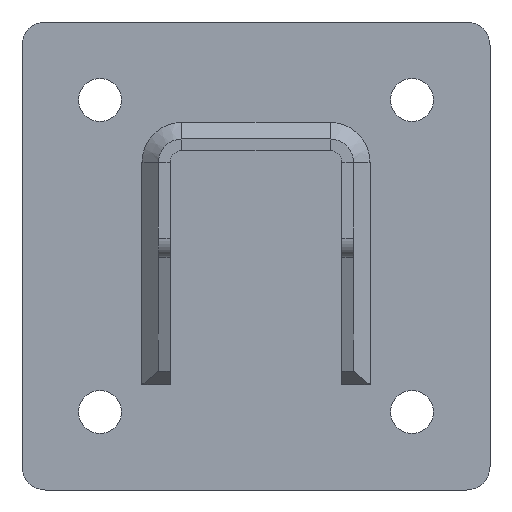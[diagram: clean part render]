
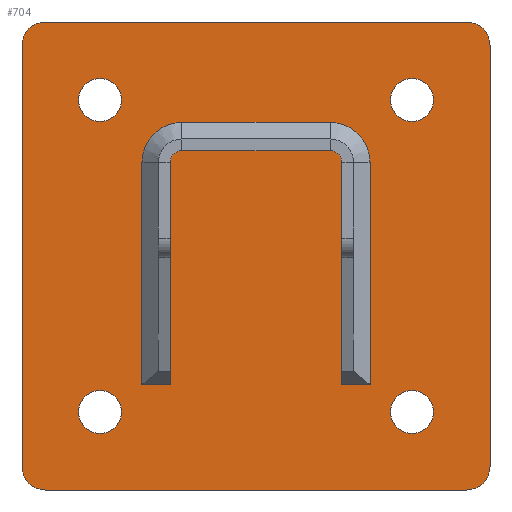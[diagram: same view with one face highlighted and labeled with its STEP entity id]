
A CAD part, front view. The second image highlights one B-rep face of the part: STEP entity #704.
In plain terms, the highlighted planar face has unit normal (0, -1, 0) as drawn and (0, 0, 1) by its records, which use the part's own axes.
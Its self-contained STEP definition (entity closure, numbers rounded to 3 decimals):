
#387=CARTESIAN_POINT('',(-40.,40.,2.5));
#388=DIRECTION('',(0.,0.,-1.));
#389=DIRECTION('',(1.,0.,0.));
#390=AXIS2_PLACEMENT_3D('',#387,#388,#389);
#392=CARTESIAN_POINT('',(-40.,40.,2.5));
#393=DIRECTION('',(0.,0.,-1.));
#394=DIRECTION('',(-1.,0.,0.));
#395=AXIS2_PLACEMENT_3D('',#392,#393,#394);
#397=CARTESIAN_POINT('',(40.,40.,2.5));
#398=DIRECTION('',(0.,0.,-1.));
#399=DIRECTION('',(1.,0.,0.));
#400=AXIS2_PLACEMENT_3D('',#397,#398,#399);
#402=CARTESIAN_POINT('',(40.,40.,2.5));
#403=DIRECTION('',(0.,0.,-1.));
#404=DIRECTION('',(-1.,0.,0.));
#405=AXIS2_PLACEMENT_3D('',#402,#403,#404);
#407=CARTESIAN_POINT('',(40.,-40.,2.5));
#408=DIRECTION('',(0.,0.,-1.));
#409=DIRECTION('',(1.,0.,0.));
#410=AXIS2_PLACEMENT_3D('',#407,#408,#409);
#412=CARTESIAN_POINT('',(40.,-40.,2.5));
#413=DIRECTION('',(0.,0.,-1.));
#414=DIRECTION('',(-1.,0.,0.));
#415=AXIS2_PLACEMENT_3D('',#412,#413,#414);
#417=CARTESIAN_POINT('',(-40.,-40.,2.5));
#418=DIRECTION('',(0.,0.,-1.));
#419=DIRECTION('',(1.,0.,0.));
#420=AXIS2_PLACEMENT_3D('',#417,#418,#419);
#422=CARTESIAN_POINT('',(-40.,-40.,2.5));
#423=DIRECTION('',(0.,0.,-1.));
#424=DIRECTION('',(-1.,0.,0.));
#425=AXIS2_PLACEMENT_3D('',#422,#423,#424);
#427=CARTESIAN_POINT('',(54.,54.,2.5));
#428=DIRECTION('',(0.,0.,1.));
#429=DIRECTION('',(1.,0.,0.));
#430=AXIS2_PLACEMENT_3D('',#427,#428,#429);
#432=DIRECTION('',(0.,1.,0.));
#433=VECTOR('',#432,108.);
#434=CARTESIAN_POINT('',(60.,-54.,2.5));
#435=LINE('',#434,#433);
#436=CARTESIAN_POINT('',(54.,-54.,2.5));
#437=DIRECTION('',(0.,0.,1.));
#438=DIRECTION('',(0.,-1.,0.));
#439=AXIS2_PLACEMENT_3D('',#436,#437,#438);
#441=DIRECTION('',(1.,0.,0.));
#442=VECTOR('',#441,108.);
#443=CARTESIAN_POINT('',(-54.,-60.,2.5));
#444=LINE('',#443,#442);
#445=CARTESIAN_POINT('',(-54.,-54.,2.5));
#446=DIRECTION('',(0.,0.,1.));
#447=DIRECTION('',(-1.,0.,0.));
#448=AXIS2_PLACEMENT_3D('',#445,#446,#447);
#450=DIRECTION('',(0.,-1.,0.));
#451=VECTOR('',#450,108.);
#452=CARTESIAN_POINT('',(-60.,54.,2.5));
#453=LINE('',#452,#451);
#454=CARTESIAN_POINT('',(-54.,54.,2.5));
#455=DIRECTION('',(0.,0.,1.));
#456=DIRECTION('',(0.,1.,0.));
#457=AXIS2_PLACEMENT_3D('',#454,#455,#456);
#459=DIRECTION('',(-1.,0.,0.));
#460=VECTOR('',#459,108.);
#461=CARTESIAN_POINT('',(54.,60.,2.5));
#462=LINE('',#461,#460);
#535=CARTESIAN_POINT('',(-34.5,40.,2.5));
#536=CARTESIAN_POINT('',(-45.5,40.,2.5));
#537=VERTEX_POINT('',#535);
#538=VERTEX_POINT('',#536);
#539=CARTESIAN_POINT('',(45.5,40.,2.5));
#540=CARTESIAN_POINT('',(34.5,40.,2.5));
#541=VERTEX_POINT('',#539);
#542=VERTEX_POINT('',#540);
#543=CARTESIAN_POINT('',(45.5,-40.,2.5));
#544=CARTESIAN_POINT('',(34.5,-40.,2.5));
#545=VERTEX_POINT('',#543);
#546=VERTEX_POINT('',#544);
#547=CARTESIAN_POINT('',(-34.5,-40.,2.5));
#548=CARTESIAN_POINT('',(-45.5,-40.,2.5));
#549=VERTEX_POINT('',#547);
#550=VERTEX_POINT('',#548);
#555=CARTESIAN_POINT('',(60.,54.,2.5));
#556=VERTEX_POINT('',#555);
#557=CARTESIAN_POINT('',(54.,60.,2.5));
#558=VERTEX_POINT('',#557);
#563=CARTESIAN_POINT('',(-54.,60.,2.5));
#564=VERTEX_POINT('',#563);
#565=CARTESIAN_POINT('',(-60.,54.,2.5));
#566=VERTEX_POINT('',#565);
#571=CARTESIAN_POINT('',(54.,-60.,2.5));
#572=VERTEX_POINT('',#571);
#573=CARTESIAN_POINT('',(60.,-54.,2.5));
#574=VERTEX_POINT('',#573);
#579=CARTESIAN_POINT('',(-60.,-54.,2.5));
#580=VERTEX_POINT('',#579);
#581=CARTESIAN_POINT('',(-54.,-60.,2.5));
#582=VERTEX_POINT('',#581);
#659=CARTESIAN_POINT('',(0.,0.,2.5));
#660=DIRECTION('',(0.,0.,1.));
#661=DIRECTION('',(1.,0.,0.));
#662=AXIS2_PLACEMENT_3D('',#659,#660,#661);
#663=PLANE('',#662);
#665=ORIENTED_EDGE('',*,*,#664,.F.);
#667=ORIENTED_EDGE('',*,*,#666,.F.);
#669=ORIENTED_EDGE('',*,*,#668,.F.);
#671=ORIENTED_EDGE('',*,*,#670,.F.);
#673=ORIENTED_EDGE('',*,*,#672,.F.);
#675=ORIENTED_EDGE('',*,*,#674,.F.);
#677=ORIENTED_EDGE('',*,*,#676,.F.);
#679=ORIENTED_EDGE('',*,*,#678,.F.);
#680=EDGE_LOOP('',(#665,#667,#669,#671,#673,#675,#677,#679));
#681=FACE_OUTER_BOUND('',#680,.F.);
#683=ORIENTED_EDGE('',*,*,#682,.F.);
#685=ORIENTED_EDGE('',*,*,#684,.F.);
#686=EDGE_LOOP('',(#683,#685));
#687=FACE_BOUND('',#686,.F.);
#689=ORIENTED_EDGE('',*,*,#688,.F.);
#691=ORIENTED_EDGE('',*,*,#690,.F.);
#692=EDGE_LOOP('',(#689,#691));
#693=FACE_BOUND('',#692,.F.);
#695=ORIENTED_EDGE('',*,*,#694,.F.);
#697=ORIENTED_EDGE('',*,*,#696,.F.);
#698=EDGE_LOOP('',(#695,#697));
#699=FACE_BOUND('',#698,.F.);
#700=ORIENTED_EDGE('',*,*,#639,.F.);
#701=ORIENTED_EDGE('',*,*,#653,.F.);
#702=EDGE_LOOP('',(#700,#701));
#703=FACE_BOUND('',#702,.F.);
#704=ADVANCED_FACE('',(#681,#687,#693,#699,#703),#663,.T.);
#391=CIRCLE('',#390,5.5);
#396=CIRCLE('',#395,5.5);
#401=CIRCLE('',#400,5.5);
#406=CIRCLE('',#405,5.5);
#411=CIRCLE('',#410,5.5);
#416=CIRCLE('',#415,5.5);
#421=CIRCLE('',#420,5.5);
#426=CIRCLE('',#425,5.5);
#431=CIRCLE('',#430,6.);
#440=CIRCLE('',#439,6.);
#449=CIRCLE('',#448,6.);
#458=CIRCLE('',#457,6.);
#639=EDGE_CURVE('',#537,#538,#391,.T.);
#653=EDGE_CURVE('',#538,#537,#396,.T.);
#664=EDGE_CURVE('',#556,#558,#431,.T.);
#666=EDGE_CURVE('',#574,#556,#435,.T.);
#668=EDGE_CURVE('',#572,#574,#440,.T.);
#670=EDGE_CURVE('',#582,#572,#444,.T.);
#672=EDGE_CURVE('',#580,#582,#449,.T.);
#674=EDGE_CURVE('',#566,#580,#453,.T.);
#676=EDGE_CURVE('',#564,#566,#458,.T.);
#678=EDGE_CURVE('',#558,#564,#462,.T.);
#682=EDGE_CURVE('',#541,#542,#401,.T.);
#684=EDGE_CURVE('',#542,#541,#406,.T.);
#688=EDGE_CURVE('',#545,#546,#411,.T.);
#690=EDGE_CURVE('',#546,#545,#416,.T.);
#694=EDGE_CURVE('',#549,#550,#421,.T.);
#696=EDGE_CURVE('',#550,#549,#426,.T.);
